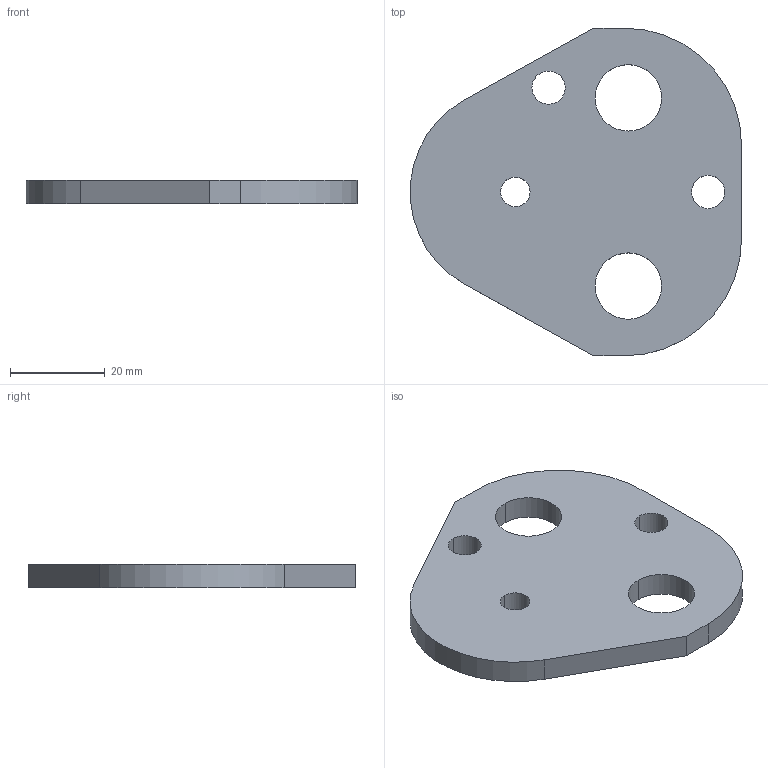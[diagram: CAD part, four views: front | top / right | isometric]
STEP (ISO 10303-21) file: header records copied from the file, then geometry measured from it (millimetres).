
FILE_DESCRIPTION(/* description */ (''),/* implementation_level */ '2;1');
FILE_NAME(/* name */ '3d_crnbp25_03636_r00.stp',/* time_stamp */ '2011-01-10T14:16:19+09:00',/* author */ ('MISUMI'),/* organization */ (''),/* preprocessor_version */ 'ST-DEVELOPER v11',/* originating_system */ 'UGS - NX 5.0',/* authorisation */ '');
FILE_SCHEMA (('CONFIG_CONTROL_DESIGN'));
Length unit declared in the file: millimetre
Products named in the file (1): 3d_crnbp25_03636_r00
Bounding box: 69.83 x 69.1 x 5 mm (x, y, z)
Volume: 16327.3 mm3; surface area: 8387.6 mm2
Topology: 1 solids, 1 shells, 20 faces, 54 edges, 36 vertices
Faces by surface type: cylinder 13, plane 7
Entity records: 750 total; most frequent: DIRECTION 122, CARTESIAN_POINT 111, ORIENTED_EDGE 108, EDGE_CURVE 54, AXIS2_PLACEMENT_3D 47, VERTEX_POINT 36, EDGE_LOOP 30, LINE 28
